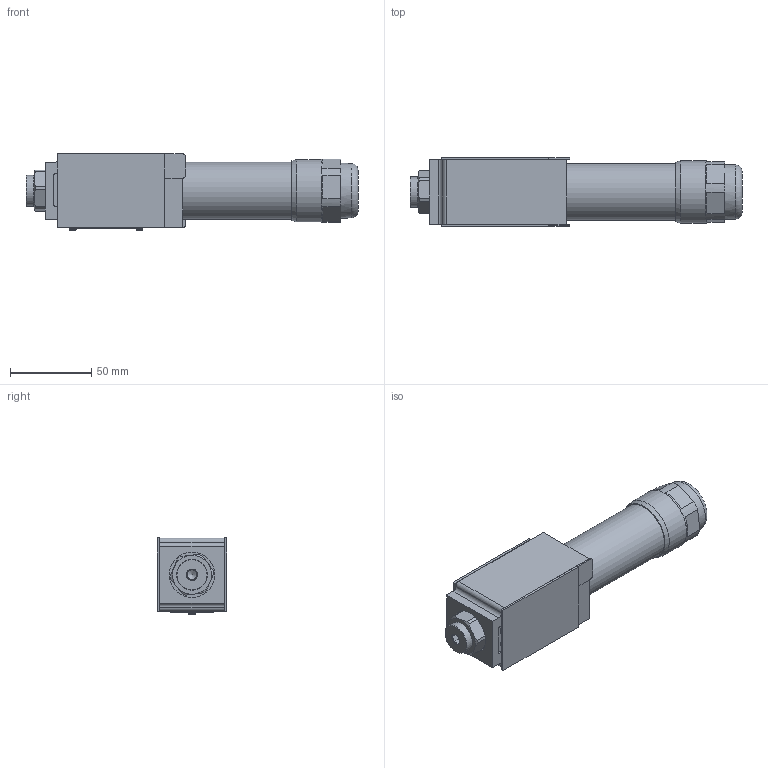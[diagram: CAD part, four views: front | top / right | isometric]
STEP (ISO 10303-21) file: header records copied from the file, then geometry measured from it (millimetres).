
FILE_DESCRIPTION(/* description */ (''),/* implementation_level */ '2;1');
FILE_NAME(/* name */ 'ZDR6DP1 4X 150YM.stp',/* time_stamp */ '2023-02-21T13:51:55+08:00',/* author */ (''),/* organization */ (''),/* preprocessor_version */ 'ST-DEVELOPER v16.7',/* originating_system */ 'SIEMENS PLM Software NX 12.0',/* authorisation */ '');
FILE_SCHEMA (('AUTOMOTIVE_DESIGN { 1 0 10303 214 3 1 1 1 }'));
Products named in the file (1): ZDR6DP1 4X 150YM
Bounding box: 204.7 x 43 x 47.05 mm (x, y, z)
Volume: 106039.8 mm3; surface area: 119763.9 mm2
Topology: 34 solids, 36 shells, 934 faces, 2336 edges, 1499 vertices
Faces by surface type: plane 321, cylinder 285, cone 144, torus 80, bspline 68, extrusion 25, sphere 11
Full cylindrical faces by diameter (mm): 0.8 x2, 1.5 x4, 1.8 x5, 2.5 x6, 3 x1, 4 x2, 4.2 x9, 4.4 x1, 5.3 x1, 5.4 x4, 6 x1, 6.1 x3, 7 x3, 7.5 x7, 9 x1, 9.2 x1, 10 x5, 10.5 x1, 10.8 x1, 11.5 x7, 12 x5, 12.1 x2, 12.2 x3, 12.3 x2, 14 x1, 15 x1, 16 x2, 16.2 x2, 17.9 x2, 18 x1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
Entity records: 72585 total; most frequent: CARTESIAN_POINT 53212, ORIENTED_EDGE 3822, DIRECTION 3595, EDGE_CURVE 1911, AXIS2_PLACEMENT_3D 1513, VERTEX_POINT 1351, EDGE_LOOP 1235, ADVANCED_FACE 906
